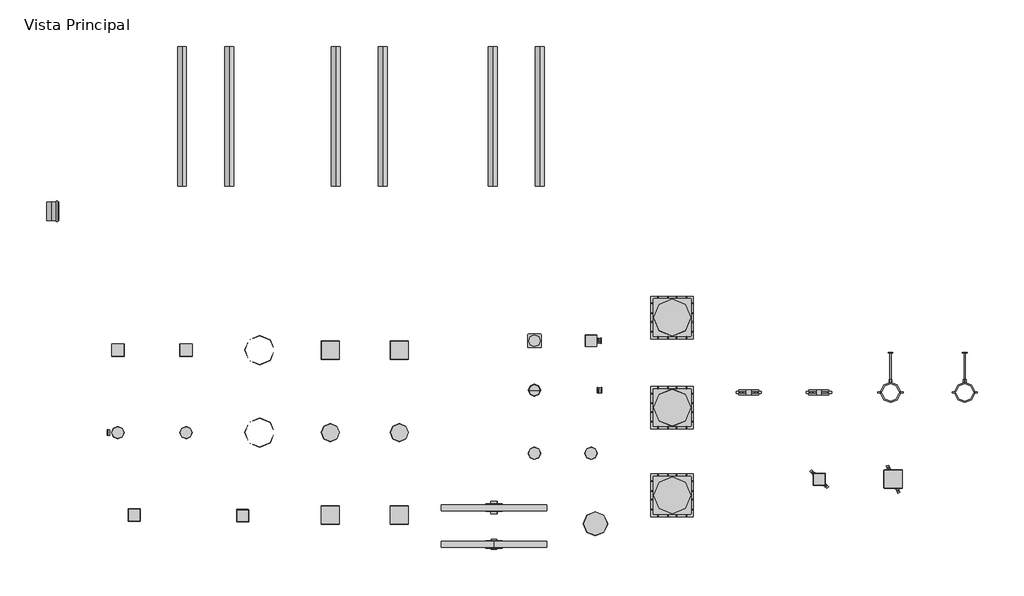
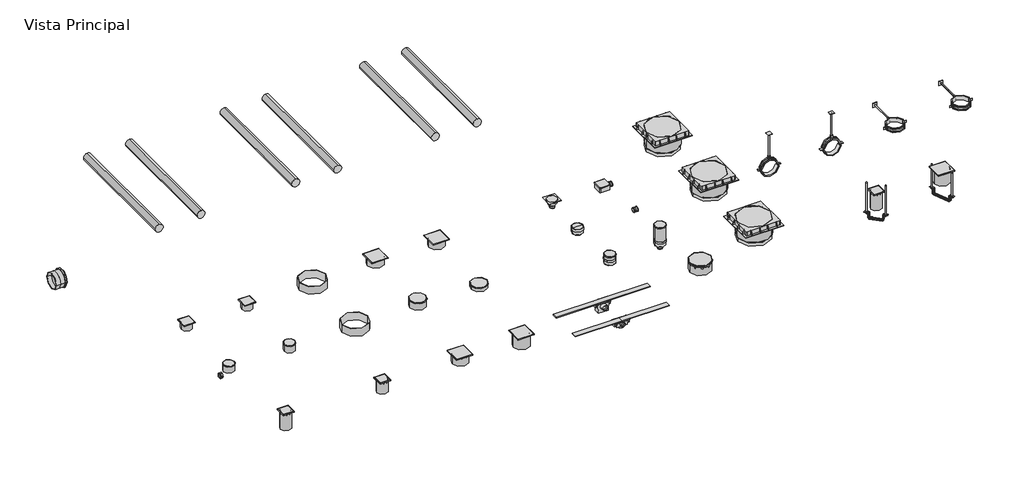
# One storey, incomplete: 79 pipe fittings, 6 pipe segments.
"""IFC4 building model written with IfcOpenShell, lengths in millimetres."""

from ifc_helpers import new_model, si_unit, point, frame, frame_2d, origin, place, context, project, spatial, circle_curve, trimmed, segment, composite_curve, outline, extrude, transform, mapped, element, save
from components import pipe_fitting_c9efb842, pipe_fitting_faaf0da3, pipe_fitting_47652752, pipe_fitting_5ac48150, var_07da592b, pipe_fitting_1affa7ac, branca_4d6c81dc, branca_e114f869, var_25763102, var_cd76d954, var_304c1aea, var_a9bd8114, var_31f01aff, var_6f0030ce, var_fd0be4a2, var_b1dc0cad, var_adf0dea4, var_122aa8a0, var_08b32b5d, var_3f5b61a8, var_c6f7f501, var_f02d1231, var_ae364558, var_155bfaf0, var_bb14af41, var_194fee5a, var_7cdf46ec, var_94de5e28, var_d2fa6d5f, var_e4b9970f, var_037d8761, var_c44c6f17, var_c8ad4ade, var_b5652f76, var_2c33ede7, var_7808e819, var_b98f59b0, var_06b88987, var_c3ea8d3d, var_ea95b4ab, var_e0431023, var_e55450d1, var_40b4b024, var_42dec933, var_47bd62c8, var_c63adebf, var_61dafded, var_d8ce8ba5, var_1266b2ea

model = new_model("IFC4")

# Units and contexts
model_context = context("Model", 3, world=origin())
ifc_project = project(units=[si_unit("LENGTHUNIT", "METRE", prefix="MILLI")], contexts=[model_context])

# Site, building, storey
site = spatial("IfcSite", under=ifc_project)
building = spatial("IfcBuilding", under=site)
storey = spatial("IfcBuildingStorey", under=building, Name="Vista Principal", Elevation=0.0)

# Pipe fittings
placement = place(None, origin())
pipe_fitting_shape = pipe_fitting_c9efb842(model_context)
element("IfcPipeFitting", 1, ObjectType="AmancoWavin_ConexõesdeTubos_EsgotoSilentiumNãoUsarSuporteCaixa : Zincado", at=placement, inside=storey, context=model_context, shape_type="MappedRepresentation", body=[
    mapped(pipe_fitting_shape, transform((21144.6539779, 3001.5203886, -290.355), x_axis=(0.7071067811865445, -0.7071067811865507, 0.0), y_axis=(0.7071067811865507, 0.7071067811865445, 0.0), z_axis=(0.0, 0.0, 1.0))),
])
pipe_fitting_2_shape = pipe_fitting_faaf0da3(model_context)
element("IfcPipeFitting", 2, ObjectType="AmancoWavin_ConexõesdeTubos_EsgotoSilentiumNãoUsarSuporteCaixa : Ecoat", at=placement, inside=storey, context=model_context, shape_type="MappedRepresentation", body=[
    mapped(pipe_fitting_2_shape, transform((21772.0366197, 3001.5203886, -293.01), x_axis=(0.3826834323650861, -0.9238795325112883, 0.0), y_axis=(0.9238795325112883, 0.3826834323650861, 0.0), z_axis=(0.0, 0.0, 1.0))),
])
pipe_fitting_3_shape = pipe_fitting_47652752(model_context)
element("IfcPipeFitting", 3, ObjectType="Z_Amanco Esgoto Caixa Sif Grelha Vórtice Quadrada (Nested) : Plástica Branca", at=placement, inside=storey, context=model_context, shape_type="MappedRepresentation", body=[
    mapped(pipe_fitting_3_shape, transform((15194.231361, 4096.9251232, 101.0), x_axis=(0.0, 1.0, 0.0), y_axis=(-1.0, 0.0, 0.0), z_axis=(0.0, 0.0, 1.0))),
])
pipe_fitting_4_shape = pipe_fitting_5ac48150(model_context)
element("IfcPipeFitting", 4, ObjectType="Z_Amanco Esgoto Caixa Sif Grelha Vórtice Redonda (Nested) : Plástica Branca", at=placement, inside=storey, context=model_context, shape_type="MappedRepresentation", body=[
    mapped(pipe_fitting_4_shape, transform((15194.231361, 3396.9251232, 98.6), x_axis=(-1.0, 0.0, 0.0), y_axis=(0.0, -1.0, 0.0), z_axis=(0.0, 0.0, 1.0))),
])
var_shape = var_07da592b(model_context)
element("IfcPipeFitting", 5, ObjectType="AmancoWavin_ConexõesdeTubos_EsgotoZNãoUsarGrelhaVorticeSilentium : Aço Inox Polido", at=placement, inside=storey, context=model_context, shape_type="MappedRepresentation", body=[
    mapped(var_shape, transform((16182.1459533, 2691.9251232, -2.6), x_axis=(-1.0, 0.0, 0.0), y_axis=(0.0, -1.0, 0.0), z_axis=(0.0, 0.0, 1.0))),
])
element("IfcPipeFitting", 6, ObjectType="AmancoWavin_ConexõesdeTubos_EsgotoZNãoUsarGrelhaVorticeSilentium : Aço Inox Polido", at=placement, inside=storey, context=model_context, shape_type="MappedRepresentation", body=[
    mapped(var_shape, transform((15262.2274414, 2696.9251232, -2.6), x_axis=(-1.0, 0.0, 0.0), y_axis=(0.0, -1.0, 0.0), z_axis=(0.0, 0.0, 1.0))),
])
pipe_fitting_5_shape = pipe_fitting_1affa7ac(model_context)
element("IfcPipeFitting", 7, ObjectType="AmancoWavin_ConexõesdeTubos_EsgotoZNãoUsarGrelhaVorticeSilentium : Aço Inox Polido", at=placement, inside=storey, context=model_context, shape_type="MappedRepresentation", body=[
    mapped(pipe_fitting_5_shape, transform((16926.8649644, 2696.9251232, -3.0), x_axis=(-1.0, 0.0, 0.0), y_axis=(0.0, -1.0, 0.0), z_axis=(0.0, 0.0, 1.0))),
])
element("IfcPipeFitting", 8, ObjectType="AmancoWavin_ConexõesdeTubos_EsgotoZNãoUsarGrelhaVorticeSilentium : Aço Inox Polido", at=placement, inside=storey, context=model_context, shape_type="MappedRepresentation", body=[
    mapped(pipe_fitting_5_shape, transform((17511.8649644, 2696.9251232, -3.0), x_axis=(-1.0, 0.0, 0.0), y_axis=(0.0, -1.0, 0.0), z_axis=(0.0, 0.0, 1.0))),
])
element("IfcPipeFitting", 9, ObjectType="AmancoWavin_ConexõesdeTubos_EsgotoZNãoUsarGrelhaVorticeSilentium : Aço Inox Polido", at=placement, inside=storey, context=model_context, shape_type="MappedRepresentation", body=[
    mapped(pipe_fitting_5_shape, transform((21701.6339755, 3001.5203886, -3.0), x_axis=(-1.0, 0.0, 0.0), y_axis=(0.0, -1.0, 0.0), z_axis=(0.0, 0.0, 1.0))),
])
branca_shape = branca_4d6c81dc(model_context)
element("IfcPipeFitting", 10, ObjectType="AmancoWavin_ConexõesdeTubos_EsgotoZNãoUsarTerminalRalolinear : Branca", at=placement, inside=storey, context=model_context, shape_type="MappedRepresentation", body=[
    mapped(branca_shape, transform((18386.107067, 2759.226408, -42.0), x_axis=(0.0, 1.0, 0.0), y_axis=(-1.0, 0.0, 0.0), z_axis=(0.0, 0.0, 1.0))),
])
branca_2_shape = branca_e114f869(model_context)
element("IfcPipeFitting", 11, ObjectType="AmancoWavin_ConexõesdeTubos_EsgotoZNãoUsarTerminalRalolinear : Branca", at=placement, inside=storey, context=model_context, shape_type="MappedRepresentation", body=[
    mapped(branca_2_shape, transform((18386.107067, 2446.98649, -32.0), x_axis=(0.0, 1.0, 0.0), y_axis=(-1.0, 0.0, 0.0), z_axis=(0.0, 0.0, 1.0))),
])
var_2_shape = var_25763102(model_context)
element("IfcPipeFitting", 12, ObjectType="AmancoWavin_ConexõesdeTubos_EsgotoSilentiumAbraçadeiraH_Zincada : Var.", at=placement, inside=storey, context=model_context, shape_type="MappedRepresentation", body=[
    mapped(var_2_shape, transform((20547.0326854, 3738.3854525, 0.0), x_axis=(1.0, 0.0, 0.0), y_axis=(0.0, 1.0, 0.0), z_axis=(0.0, 0.0, 1.0))),
])
var_3_shape = var_cd76d954(model_context)
element("IfcPipeFitting", 13, ObjectType="Z_Amanco Esgoto Redução Para Caixa Sifonada DN50X40 (Nested) : Var.", at=placement, inside=storey, context=model_context, shape_type="MappedRepresentation", body=[
    mapped(var_3_shape, transform((15116.031361, 3396.9251232, 0.0), x_axis=(1.0, 0.0, 0.0), y_axis=(0.0, 1.0, 0.0), z_axis=(0.0, 0.0, 1.0))),
])
var_4_shape = var_304c1aea(model_context)
element("IfcPipeFitting", 14, ObjectType="Z_Amanco Esgoto Caixa Sif DN 100  SQ GRID(Nested) : Var.", at=placement, inside=storey, context=model_context, shape_type="MappedRepresentation", body=[
    mapped(var_4_shape, transform((15772.6300856, 4096.9251232, 101.0), x_axis=(1.0, 0.0, 0.0), y_axis=(0.0, 1.0, 0.0), z_axis=(0.0, 0.0, 1.0))),
])
var_5_shape = var_a9bd8114(model_context)
element("IfcPipeFitting", 15, ObjectType="Z_Amanco Esgoto Caixa Sif DN 100 Porta Grelha Redondo (Nested) : Var.", at=placement, inside=storey, context=model_context, shape_type="MappedRepresentation", body=[
    mapped(var_5_shape, transform((15194.231361, 3396.9251232, 98.5), x_axis=(0.0, 1.0, 0.0), y_axis=(-1.0, 0.0, 0.0), z_axis=(0.0, 0.0, 1.0))),
])
var_6_shape = var_31f01aff(model_context)
element("IfcPipeFitting", 16, ObjectType="Z_Amanco Esgoto Caixa Sif DN 100 Porta Grelha Quadrado (Nested) : Var.", at=placement, inside=storey, context=model_context, shape_type="MappedRepresentation", body=[
    mapped(var_6_shape, transform((15194.231361, 4096.9251232, 101.0), x_axis=(1.0, 0.0, 0.0), y_axis=(0.0, 1.0, 0.0), z_axis=(0.0, 0.0, 1.0))),
])
var_7_shape = var_6f0030ce(model_context)
element("IfcPipeFitting", 17, ObjectType="Z_Amanco Esgoto Caixa Sif DN 100  RO GRID(Nested) : Var.", at=placement, inside=storey, context=model_context, shape_type="MappedRepresentation", body=[
    mapped(var_7_shape, transform((15772.6300856, 3396.9251232, 106.0), x_axis=(1.0, 0.0, 0.0), y_axis=(0.0, 1.0, 0.0), z_axis=(0.0, 0.0, 1.0))),
])
var_8_shape = var_fd0be4a2(model_context)
element("IfcPipeFitting", 18, ObjectType="Z_Amanco Esgoto Caixa Sif DN 150  RO GRID(Nested) : Var.", at=placement, inside=storey, context=model_context, shape_type="MappedRepresentation", body=[
    mapped(var_8_shape, transform((16997.2676086, 3396.9251232, 126.0), x_axis=(1.0, 0.0, 0.0), y_axis=(0.0, 1.0, 0.0), z_axis=(0.0, 0.0, 1.0))),
])
element("IfcPipeFitting", 19, ObjectType="Z_Amanco Esgoto Caixa Sif DN 150  RO GRID(Nested) : Var.", at=placement, inside=storey, context=model_context, shape_type="MappedRepresentation", body=[
    mapped(var_8_shape, transform((17582.2676086, 3396.9251232, 74.0), x_axis=(1.0, 0.0, 0.0), y_axis=(0.0, 1.0, 0.0), z_axis=(0.0, 0.0, 1.0))),
])
var_9_shape = var_b1dc0cad(model_context)
element("IfcPipeFitting", 20, ObjectType="AmancoWavin_ConexõesdeTubos_EsgotoZNãoUsarRaloSifonadoCilindrico : Var.", at=placement, inside=storey, context=model_context, shape_type="MappedRepresentation", body=[
    mapped(var_9_shape, transform((18729.1544399, 3756.5330417, -18.0), x_axis=(1.0, 0.0, 0.0), y_axis=(0.0, 1.0, 0.0), z_axis=(0.0, 0.0, 1.0))),
])
var_10_shape = var_adf0dea4(model_context)
element("IfcPipeFitting", 21, ObjectType="AmancoWavin_ConexõesdeTubos_EsgotoZNãoUsarCaixaSifonadaSilentiumProlongamento : Var.", at=placement, inside=storey, context=model_context, shape_type="MappedRepresentation", body=[
    mapped(var_10_shape, transform((15332.6300856, 2696.9251232, -173.625), x_axis=(0.0, 0.0, 1.0), y_axis=(-1.0, 0.0, 0.0), z_axis=(0.0, -1.0, 0.0))),
])
element("IfcPipeFitting", 22, ObjectType="AmancoWavin_ConexõesdeTubos_EsgotoZNãoUsarCaixaSifonadaSilentiumProlongamento : Var.", at=placement, inside=storey, context=model_context, shape_type="MappedRepresentation", body=[
    mapped(var_10_shape, transform((21144.6539779, 3001.5203886, -173.625), x_axis=(0.0, 0.0, 1.0), y_axis=(-1.0, 0.0, 0.0), z_axis=(0.0, -1.0, 0.0))),
])
var_11_shape = var_122aa8a0(model_context)
element("IfcPipeFitting", 23, ObjectType="AmancoWavin_ConexõesdeTubos_EsgotoZNãoUsarCaixaSifonadaSilentiumProlongamento : Var.", at=placement, inside=storey, context=model_context, shape_type="MappedRepresentation", body=[
    mapped(var_11_shape, transform((16997.2676086, 2696.9251232, -91.0), x_axis=(0.0, 0.0, 1.0), y_axis=(-1.0, 0.0, 0.0), z_axis=(0.0, -1.0, 0.0))),
])
var_12_shape = var_08b32b5d(model_context)
element("IfcPipeFitting", 24, ObjectType="AmancoWavin_ConexõesdeTubos_EsgotoZNãoUsarCaixaSifonadaSilentiumProlongamento : Var.", at=placement, inside=storey, context=model_context, shape_type="MappedRepresentation", body=[
    mapped(var_12_shape, transform((17582.2676086, 2696.9251232, -128.0), x_axis=(0.0, 0.0, 1.0), y_axis=(-1.0, 0.0, 0.0), z_axis=(0.0, -1.0, 0.0))),
])
element("IfcPipeFitting", 25, ObjectType="AmancoWavin_ConexõesdeTubos_EsgotoZNãoUsarCaixaSifonadaSilentiumProlongamento : Var.", at=placement, inside=storey, context=model_context, shape_type="MappedRepresentation", body=[
    mapped(var_12_shape, transform((21772.0366197, 3001.5203886, -128.0), x_axis=(0.0, 0.0, 1.0), y_axis=(-1.0, 0.0, 0.0), z_axis=(0.0, -1.0, 0.0))),
])
var_13_shape = var_3f5b61a8(model_context)
element("IfcPipeFitting", 26, ObjectType="AmancoWavin_ConexõesdeTubos_EsgotoZNãoUsarCaixaSifonadaSilentiumProlongamento : Var.", at=placement, inside=storey, context=model_context, shape_type="MappedRepresentation", body=[
    mapped(var_13_shape, transform((16252.5485975, 2691.9251232, -124.6526955), x_axis=(0.0, 0.0, 1.0), y_axis=(-1.0, 0.0, 0.0), z_axis=(0.0, -1.0, 0.0))),
])
var_14_shape = var_c6f7f501(model_context)
element("IfcPipeFitting", 27, ObjectType="AmancoWavin_ConexõesdeTubos_EsgotoZNãoUsarGelhaRaloLinear : Var.", at=placement, inside=storey, context=model_context, shape_type="MappedRepresentation", body=[
    mapped(var_14_shape, transform((18610.257067, 2446.98649, -5.7), x_axis=(-1.0, 0.0, 0.0), y_axis=(0.0, -1.0, 0.0), z_axis=(0.0, 0.0, 1.0))),
])
element("IfcPipeFitting", 28, ObjectType="AmancoWavin_ConexõesdeTubos_EsgotoZNãoUsarGelhaRaloLinear : Var.", at=placement, inside=storey, context=model_context, shape_type="MappedRepresentation", body=[
    mapped(var_14_shape, transform((18161.957067, 2446.98649, -5.7), x_axis=(-1.0, 0.0, 0.0), y_axis=(0.0, -1.0, 0.0), z_axis=(0.0, 0.0, 1.0))),
])
var_15_shape = var_f02d1231(model_context)
element("IfcPipeFitting", 29, ObjectType="AmancoWavin_ConexõesdeTubos_EsgotoRaloLinearSifonado : Var.", at=placement, inside=storey, context=model_context, shape_type="MappedRepresentation", body=[
    mapped(var_15_shape, transform((18386.107067, 2759.226408, 0.0), x_axis=(-1.0, 0.0, 0.0), y_axis=(0.0, -1.0, 0.0), z_axis=(0.0, 0.0, 1.0))),
])
var_16_shape = var_ae364558(model_context)
element("IfcPipeFitting", 30, ObjectType="AmancoWavin_ConexõesdeTubos_EsgotoZNãoUsarEsgotoProlongamento300mm : Var.", at=placement, inside=storey, context=model_context, shape_type="MappedRepresentation", body=[
    mapped(var_16_shape, transform((19897.5301317, 4373.3854525, 44.7), x_axis=(1.0, 0.0, 0.0), y_axis=(0.0, 1.0, 0.0), z_axis=(0.0, 0.0, 1.0))),
])
element("IfcPipeFitting", 31, ObjectType="AmancoWavin_ConexõesdeTubos_EsgotoZNãoUsarEsgotoProlongamento300mm : Var.", at=placement, inside=storey, context=model_context, shape_type="MappedRepresentation", body=[
    mapped(var_16_shape, transform((19897.5301317, 3608.8206667, 58.8), x_axis=(1.0, 0.0, 0.0), y_axis=(0.0, 1.0, 0.0), z_axis=(0.0, 0.0, 1.0))),
])
var_17_shape = var_155bfaf0(model_context)
element("IfcPipeFitting", 32, ObjectType="AmancoWavin_ConexõesdeTubos_EsgotoZNãoUsarEsgotoProlongamento300mm : Var.", at=placement, inside=storey, context=model_context, shape_type="MappedRepresentation", body=[
    mapped(var_17_shape, transform((19897.5301317, 2864.2558809, 58.8), x_axis=(1.0, 0.0, 0.0), y_axis=(0.0, 1.0, 0.0), z_axis=(0.0, 0.0, 1.0))),
])
var_18_shape = var_bb14af41(model_context)
element("IfcPipeFitting", 33, ObjectType="AmancoWavin_ConexõesdeTubos_EsgotoZNãoUsarPortaGrelhaVálvuladeRetenção : Var.", at=placement, inside=storey, context=model_context, shape_type="MappedRepresentation", body=[
    mapped(var_18_shape, transform((19316.5560305, 2623.1095783, 178.0), x_axis=(1.0, 0.0, 0.0), y_axis=(0.0, 1.0000000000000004, 0.0), z_axis=(0.0, 0.0, 1.0000000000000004))),
])
var_19_shape = var_194fee5a(model_context)
element("IfcPipeFitting", 34, ObjectType="AmancoWavin_ConexõesdeTubos_EsgotoZNãoUsarEsgotoCaixaSifProlongamento : Var.", at=placement, inside=storey, context=model_context, shape_type="MappedRepresentation", body=[
    mapped(var_19_shape, transform((16397.2676086, 4096.9251232, 31.0), x_axis=(0.0, 0.0, 1.0), y_axis=(-1.0, 0.0, 0.0), z_axis=(0.0, -1.0, 0.0))),
])
element("IfcPipeFitting", 35, ObjectType="AmancoWavin_ConexõesdeTubos_EsgotoZNãoUsarEsgotoCaixaSifProlongamento : Var.", at=placement, inside=storey, context=model_context, shape_type="MappedRepresentation", body=[
    mapped(var_19_shape, transform((16397.2676086, 3396.9251232, 31.0), x_axis=(0.0, 0.0, 1.0), y_axis=(-1.0, 0.0, 0.0), z_axis=(0.0, -1.0, 0.0))),
])
var_20_shape = var_7cdf46ec(model_context)
element("IfcPipeFitting", 36, ObjectType="AmancoWavin_ConexõesdeTubos_EsgotoZNãoUsarEsgotoCaixaSifProlongamento : Var.", at=placement, inside=storey, context=model_context, shape_type="MappedRepresentation", body=[
    mapped(var_20_shape, transform((16997.2676086, 4096.9251232, 51.0), x_axis=(0.0, 0.0, 1.0), y_axis=(-1.0, 0.0, 0.0), z_axis=(0.0, -1.0, 0.0))),
])
element("IfcPipeFitting", 37, ObjectType="AmancoWavin_ConexõesdeTubos_EsgotoZNãoUsarEsgotoCaixaSifProlongamento : Var.", at=placement, inside=storey, context=model_context, shape_type="MappedRepresentation", body=[
    mapped(var_20_shape, transform((16997.2676086, 3396.9251232, 51.0), x_axis=(0.0, 0.0, 1.0), y_axis=(-1.0, 0.0, 0.0), z_axis=(0.0, -1.0, 0.0))),
])
element("IfcPipeFitting", 38, ObjectType="AmancoWavin_ConexõesdeTubos_EsgotoZNãoUsarEsgotoCaixaSifProlongamento : Var.", at=placement, inside=storey, context=model_context, shape_type="MappedRepresentation", body=[
    mapped(var_20_shape, transform((17582.2676086, 4096.9251232, 34.0), x_axis=(0.0, 0.0, 1.0), y_axis=(-1.0, 0.0, 0.0), z_axis=(0.0, -1.0, 0.0))),
])
var_21_shape = var_94de5e28(model_context)
element("IfcPipeFitting", 39, ObjectType="AmancoWavin_ConexõesdeTubos_EsgotoZNãoUsarEsgotoCaixaSifProlongamento : Var.", at=placement, inside=storey, context=model_context, shape_type="MappedRepresentation", body=[
    mapped(var_21_shape, transform((15772.6300856, 3396.9251232, 31.0), x_axis=(0.0, 0.0, 1.0), y_axis=(-1.0, 0.0, 0.0), z_axis=(0.0, -1.0, 0.0))),
])
var_22_shape = var_d2fa6d5f(model_context)
element("IfcPipeFitting", 40, ObjectType="AmancoWavin_ConexõesdeTubos_EsgotoZNãoUsarEsgotoCaixaSifProlongamento : Var.", at=placement, inside=storey, context=model_context, shape_type="MappedRepresentation", body=[
    mapped(var_22_shape, transform((17582.2676086, 3396.9251232, 34.0), x_axis=(0.0, 0.0, 1.0), y_axis=(-1.0, 0.0, 0.0), z_axis=(0.0, -1.0, 0.0))),
])
var_23_shape = var_e4b9970f(model_context)
element("IfcPipeFitting", 41, ObjectType="AmancoWavin_ConexõesdeTubos_EsgotoZNãoUsarEsgotoCaixaSifProlongamento : Var.", at=placement, inside=storey, context=model_context, shape_type="MappedRepresentation", body=[
    mapped(var_23_shape, transform((19246.1533863, 2623.1095783, 98.8), x_axis=(0.0, 0.0, 1.0000000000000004), y_axis=(-1.0, 0.0, 0.0), z_axis=(0.0, -1.0000000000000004, 0.0))),
])
var_24_shape = var_037d8761(model_context)
element("IfcPipeFitting", 42, ObjectType="AmancoWavin_ConexõesdeTubos_EsgotoZNãoUsarEsgotoCaixaSifProlongamento : Var.", at=placement, inside=storey, context=model_context, shape_type="MappedRepresentation", body=[
    mapped(var_24_shape, transform((15772.6300856, 4096.9251232, 31.0), x_axis=(0.0, 0.0, 1.0), y_axis=(-1.0, 0.0, 0.0), z_axis=(0.0, -1.0, 0.0))),
])
element("IfcPipeFitting", 43, ObjectType="AmancoWavin_ConexõesdeTubos_EsgotoZNãoUsarEsgotoCaixaSifProlongamento : Var.", at=placement, inside=storey, context=model_context, shape_type="MappedRepresentation", body=[
    mapped(var_24_shape, transform((15194.231361, 4096.9251232, 31.0), x_axis=(0.0, 0.0, 1.0), y_axis=(-1.0, 0.0, 0.0), z_axis=(0.0, -1.0, 0.0))),
])
var_25_shape = var_c44c6f17(model_context)
element("IfcPipeFitting", 44, ObjectType="AmancoWavin_ConexõesdeTubos_EsgotoZNãoUsarEsgotoCaixaSifProlongamento : Var.", at=placement, inside=storey, context=model_context, shape_type="MappedRepresentation", body=[
    mapped(var_25_shape, transform((18729.1544399, 3221.7756526, 19.3), x_axis=(0.0, 0.0, 1.0), y_axis=(-1.0, 0.0, 0.0), z_axis=(0.0, -1.0, 0.0))),
])
var_26_shape = var_c8ad4ade(model_context)
element("IfcPipeFitting", 45, ObjectType="AmancoWavin_ConexõesdeTubos_EsgotoZNãoUsarEsgotoCaixaSifProlongamento : Var.", at=placement, inside=storey, context=model_context, shape_type="MappedRepresentation", body=[
    mapped(var_26_shape, transform((19209.1544399, 3221.7756526, 38.0), x_axis=(0.0, 0.0, 1.0), y_axis=(-1.0, 0.0, 0.0), z_axis=(0.0, -1.0, 0.0))),
])
var_27_shape = var_b5652f76(model_context)
element("IfcPipeFitting", 46, ObjectType="AmancoWavin_ConexõesdeTubos_EsgotoZNãoUsarEsgotoCaixaSifProlongamento : Var.", at=placement, inside=storey, context=model_context, shape_type="MappedRepresentation", body=[
    mapped(var_27_shape, transform((15194.231361, 3396.9251232, 31.0), x_axis=(0.0, 0.0, 1.0), y_axis=(-1.0, 0.0, 0.0), z_axis=(0.0, -1.0, 0.0))),
])
var_28_shape = var_2c33ede7(model_context)
element("IfcPipeFitting", 47, ObjectType="AmancoWavin_ConexõesdeTubos_EsgotoZNãoUsarTampaCaixaGord-Insp : Var.", at=placement, inside=storey, context=model_context, shape_type="MappedRepresentation", body=[
    mapped(var_28_shape, transform((19897.5301317, 3608.8206667, 212.6), x_axis=(1.0, 0.0, 0.0), y_axis=(0.0, 1.0, 0.0), z_axis=(0.0, 0.0, 1.0))),
])
element("IfcPipeFitting", 48, ObjectType="AmancoWavin_ConexõesdeTubos_EsgotoZNãoUsarTampaCaixaGord-Insp : Var.", at=placement, inside=storey, context=model_context, shape_type="MappedRepresentation", body=[
    mapped(var_28_shape, transform((19897.5301317, 4373.3854525, 198.5), x_axis=(1.0, 0.0, 0.0), y_axis=(0.0, 1.0, 0.0), z_axis=(0.0, 0.0, 1.0))),
])
element("IfcPipeFitting", 49, ObjectType="AmancoWavin_ConexõesdeTubos_EsgotoZNãoUsarTampaCaixaGord-Insp : Var.", at=placement, inside=storey, context=model_context, shape_type="MappedRepresentation", body=[
    mapped(var_28_shape, transform((19897.5301317, 2864.2558809, 207.6), x_axis=(1.0, 0.0, 0.0), y_axis=(0.0, 1.0, 0.0), z_axis=(0.0, 0.0, 1.0))),
])
var_29_shape = var_7808e819(model_context)
element("IfcPipeFitting", 50, ObjectType="AmancoWavin_ConexõesdeTubos_EsgotoZNãoUsarRaloSifonadoQuadrado(Corpo Conico) : Var.", at=placement, inside=storey, context=model_context, shape_type="MappedRepresentation", body=[
    mapped(var_29_shape, transform((18729.1544399, 4176.9251232, 0.0), x_axis=(1.0, 0.0, 0.0), y_axis=(0.0, 1.0, 0.0), z_axis=(0.0, 0.0, 1.0))),
])
var_30_shape = var_b98f59b0(model_context)
element("IfcPipeFitting", 51, ObjectType="AmancoWavin_ConexõesdeTubos_EsgotoZNãoUsarPortaGrelhaSilentium : Var.", at=placement, inside=storey, context=model_context, shape_type="MappedRepresentation", body=[
    mapped(var_30_shape, transform((17067.6702529, 2696.9251232, -7.0), x_axis=(1.0, 0.0, 0.0), y_axis=(0.0, 1.0, 0.0), z_axis=(0.0, 0.0, 1.0))),
])
element("IfcPipeFitting", 52, ObjectType="AmancoWavin_ConexõesdeTubos_EsgotoZNãoUsarPortaGrelhaSilentium : Var.", at=placement, inside=storey, context=model_context, shape_type="MappedRepresentation", body=[
    mapped(var_30_shape, transform((17511.8649644, 2696.9251232, -7.0), x_axis=(-1.0, 0.0, 0.0), y_axis=(0.0, -1.0, 0.0), z_axis=(0.0, 0.0, 1.0))),
])
element("IfcPipeFitting", 53, ObjectType="AmancoWavin_ConexõesdeTubos_EsgotoZNãoUsarPortaGrelhaSilentium : Var.", at=placement, inside=storey, context=model_context, shape_type="MappedRepresentation", body=[
    mapped(var_30_shape, transform((21701.6339755, 3001.5203886, -7.0), x_axis=(-1.0, 0.0, 0.0), y_axis=(0.0, -1.0, 0.0), z_axis=(0.0, 0.0, 1.0))),
])
var_31_shape = var_06b88987(model_context)
element("IfcPipeFitting", 54, ObjectType="AmancoWavin_ConexõesdeTubos_EsgotoSilentiumAbraçadeiraV_Zincada : Var.", at=placement, inside=storey, context=model_context, shape_type="MappedRepresentation", body=[
    mapped(var_31_shape, transform((21749.9859504, 3738.3854525, 0.0), x_axis=(-1.0, 0.0, 0.0), y_axis=(0.0, -1.0, 0.0), z_axis=(0.0, 0.0, 1.0))),
])
element("IfcPipeFitting", 55, ObjectType="AmancoWavin_ConexõesdeTubos_EsgotoSilentiumAbraçadeiraH_Ecoat : Var.", at=placement, inside=storey, context=model_context, shape_type="MappedRepresentation", body=[
    mapped(var_2_shape, transform((21142.1466458, 3738.3854525, 0.0), x_axis=(1.0, 0.0, 0.0), y_axis=(0.0, 1.0, 0.0), z_axis=(0.0, 0.0, 1.0))),
])
element("IfcPipeFitting", 56, ObjectType="AmancoWavin_ConexõesdeTubos_EsgotoSilentiumAbraçadeiraV_Ecoat : Var.", at=placement, inside=storey, context=model_context, shape_type="MappedRepresentation", body=[
    mapped(var_31_shape, transform((22380.0999108, 3738.3854525, 0.0), x_axis=(-1.0, 0.0, 0.0), y_axis=(0.0, -1.0, 0.0), z_axis=(0.0, 0.0, 1.0))),
])
var_32_shape = var_c3ea8d3d(model_context)
element("IfcPipeFitting", 57, ObjectType="AmancoWavin_ConexõesdeTubos_EsfotoSilentiumNãoUsarBarracomBase : Var.", at=placement, inside=storey, context=model_context, shape_type="MappedRepresentation", body=[
    mapped(var_32_shape, transform((20547.0326854, 3738.3854525, 97.5), x_axis=(1.0, 0.0, 0.0), y_axis=(0.0, 1.0, 0.0), z_axis=(0.0, 0.0, 1.0))),
])
element("IfcPipeFitting", 58, ObjectType="AmancoWavin_ConexõesdeTubos_EsfotoSilentiumNãoUsarBarracomBase : Var.", at=placement, inside=storey, context=model_context, shape_type="MappedRepresentation", body=[
    mapped(var_32_shape, transform((21749.9859504, 3835.8854525, 0.0), x_axis=(1.0, 0.0, 0.0), y_axis=(0.0, 0.0, -1.0), z_axis=(0.0, 1.0, 0.0))),
])
element("IfcPipeFitting", 59, ObjectType="AmancoWavin_ConexõesdeTubos_EsfotoSilentiumNãoUsarBarracomBase : Var.", at=placement, inside=storey, context=model_context, shape_type="MappedRepresentation", body=[
    mapped(var_32_shape, transform((22380.0999108, 3835.8854525, 0.0), x_axis=(1.0, 0.0, 0.0), y_axis=(0.0, 0.0, -1.0), z_axis=(0.0, 1.0, 0.0))),
])
element("IfcPipeFitting", 60, ObjectType="AmancoWavin_ConexõesdeTubos_EsfotoSilentiumNãoUsarBarracomBase : Var.", at=placement, inside=storey, context=model_context, shape_type="MappedRepresentation", body=[
    mapped(var_32_shape, transform((21142.1466458, 3738.3854525, 97.5), x_axis=(1.0, 0.0, 0.0), y_axis=(0.0, 1.0, 0.0), z_axis=(0.0, 0.0, 1.0))),
])
var_33_shape = var_ea95b4ab(model_context)
element("IfcPipeFitting", 61, ObjectType="AmancoWavin_ConexõesdeTubos_EsfotoSilentiumNãoUsarBarrasemBase : Var.", at=placement, inside=storey, context=model_context, shape_type="MappedRepresentation", body=[
    mapped(var_33_shape, transform((21731.6635176, 3098.9896792, -250.26), x_axis=(0.3826834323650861, -0.9238795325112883, 0.0), y_axis=(0.9238795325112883, 0.3826834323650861, 0.0), z_axis=(0.0, 0.0, 1.0))),
])
element("IfcPipeFitting", 62, ObjectType="AmancoWavin_ConexõesdeTubos_EsfotoSilentiumNãoUsarBarrasemBase : Var.", at=placement, inside=storey, context=model_context, shape_type="MappedRepresentation", body=[
    mapped(var_33_shape, transform((21812.4097218, 2904.0510979, -250.26), x_axis=(0.3826834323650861, -0.9238795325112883, 0.0), y_axis=(0.9238795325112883, 0.3826834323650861, 0.0), z_axis=(0.0, 0.0, 1.0))),
])
var_34_shape = var_e0431023(model_context)
element("IfcPipeFitting", 63, ObjectType="AmancoWavin_ConexõesdeTubos_EsfotoSilentiumNãoUsarBarrasemBase : Var.", at=placement, inside=storey, context=model_context, shape_type="MappedRepresentation", body=[
    mapped(var_34_shape, transform((21086.3176684, 3059.856698, -247.605), x_axis=(0.7071067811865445, -0.7071067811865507, 0.0), y_axis=(0.7071067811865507, 0.7071067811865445, 0.0), z_axis=(0.0, 0.0, 1.0))),
])
element("IfcPipeFitting", 64, ObjectType="AmancoWavin_ConexõesdeTubos_EsfotoSilentiumNãoUsarBarrasemBase : Var.", at=placement, inside=storey, context=model_context, shape_type="MappedRepresentation", body=[
    mapped(var_34_shape, transform((21202.9902873, 2943.1840791, -247.605), x_axis=(0.7071067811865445, -0.7071067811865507, 0.0), y_axis=(0.7071067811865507, 0.7071067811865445, 0.0), z_axis=(0.0, 0.0, 1.0))),
])
element("IfcPipeFitting", 65, ObjectType="AmancoWavin_ConexõesdeTubos_EsgotoZNãoUsarGrelhaSilentium : Var.", at=placement, inside=storey, context=model_context, shape_type="MappedRepresentation", body=[
    mapped(var_shape, transform((21215.0566221, 3001.5203886, -2.6), x_axis=(1.0, 0.0, 0.0), y_axis=(0.0, 1.0, 0.0), z_axis=(0.0, 0.0, 1.0))),
])
var_35_shape = var_e55450d1(model_context)
element("IfcPipeFitting", 66, ObjectType="Z_Amanco Esgoto Caixa Sif DN 150  SQ GRID(Nested) : Var.", at=placement, inside=storey, context=model_context, shape_type="MappedRepresentation", body=[
    mapped(var_35_shape, transform((16997.2676086, 4096.9251232, 126.0), x_axis=(1.0, 0.0, 0.0), y_axis=(0.0, 1.0, 0.0), z_axis=(0.0, 0.0, 1.0))),
])
element("IfcPipeFitting", 67, ObjectType="Z_Amanco Esgoto Caixa Sif DN 150  SQ GRID(Nested) : Var.", at=placement, inside=storey, context=model_context, shape_type="MappedRepresentation", body=[
    mapped(var_35_shape, transform((17582.2676086, 4096.9251232, 109.0), x_axis=(1.0, 0.0, 0.0), y_axis=(0.0, 1.0, 0.0), z_axis=(0.0, 0.0, 1.0))),
])
var_36_shape = var_40b4b024(model_context)
element("IfcPipeFitting", 68, ObjectType="AmancoWavin_ConexõesdeTubos_EsgotoZNãoUsarLuvaSimple : Var.", at=placement, inside=storey, context=model_context, shape_type="MappedRepresentation", body=[
    mapped(var_36_shape, transform((19209.1544399, 3221.7756526, -19.0), x_axis=(0.0, 0.0, 1.0), y_axis=(-1.0, 0.0, 0.0), z_axis=(0.0, -1.0, 0.0))),
])
element("IfcPipeFitting", 69, ObjectType="AmancoWavin_ConexõesdeTubos_EsgotoZNãoUsarLuvaSimple : Var.", at=placement, inside=storey, context=model_context, shape_type="MappedRepresentation", body=[
    mapped(var_36_shape, transform((19280.4544399, 3756.5330417, 0.0), x_axis=(-1.0, 0.0, 0.0), y_axis=(0.0, -1.0, 0.0), z_axis=(0.0, 0.0, 1.0))),
])
element("IfcPipeFitting", 70, ObjectType="AmancoWavin_ConexõesdeTubos_EsgotoZNãoUsarLuvaSimple : Var.", at=placement, inside=storey, context=model_context, shape_type="MappedRepresentation", body=[
    mapped(var_36_shape, transform((19277.3544399, 4176.9251232, 0.0), x_axis=(-1.0, 0.0, 0.0), y_axis=(0.0, 0.0, -1.0), z_axis=(0.0, -1.0, 0.0))),
])
element("IfcPipeFitting", 71, ObjectType="AmancoWavin_ConexõesdeTubos_EsgotoZNãoUsarLuvaSimple : Var.", at=placement, inside=storey, context=model_context, shape_type="MappedRepresentation", body=[
    mapped(var_36_shape, transform((18729.1544399, 4176.9251232, -19.0), x_axis=(0.0, 0.0, 1.0), y_axis=(-1.0, 0.0, 0.0), z_axis=(0.0, -1.0, 0.0))),
])
var_37_shape = var_42dec933(model_context)
element("IfcPipeFitting", 72, ObjectType="AmancoWavin_ConexõesdeTubos_EsgotoZNãoUsarLuvaSimple : Var.", at=placement, inside=storey, context=model_context, shape_type="MappedRepresentation", body=[
    mapped(var_37_shape, transform((14629.1609889, 5276.2225632, 0.0), x_axis=(1.0, 0.0, 0.0), y_axis=(0.0, 1.0, 0.0), z_axis=(0.0, 0.0, 1.0))),
])
var_38_shape = var_47bd62c8(model_context)
element("IfcPipeFitting", 73, ObjectType="AmancoWavin_ConexõesdeTubos_EsgotoRaloSecoQuadrado : Var.", at=placement, inside=storey, context=model_context, shape_type="MappedRepresentation", body=[
    mapped(var_38_shape, transform((19209.1544399, 4176.9251232, 0.0), x_axis=(1.0, 0.0, 0.0), y_axis=(0.0, 1.0, 0.0), z_axis=(0.0, 0.0, 1.0))),
])
var_39_shape = var_c63adebf(model_context)
element("IfcPipeFitting", 74, ObjectType="AmancoWavin_ConexõesdeTubos_EsgotoZNãoUsarPortaGrelhaSilentium : Var.", at=placement, inside=storey, context=model_context, shape_type="MappedRepresentation", body=[
    mapped(var_39_shape, transform((15403.0327298, 2696.9251232, -7.0), x_axis=(1.0, 0.0, 0.0), y_axis=(0.0, 1.0, 0.0), z_axis=(0.0, 0.0, 1.0))),
])
element("IfcPipeFitting", 75, ObjectType="AmancoWavin_ConexõesdeTubos_EsgotoZNãoUsarPortaGrelhaSilentium : Var.", at=placement, inside=storey, context=model_context, shape_type="MappedRepresentation", body=[
    mapped(var_39_shape, transform((21215.0566221, 3001.5203886, -7.0), x_axis=(1.0, 0.0, 0.0), y_axis=(0.0, 1.0, 0.0), z_axis=(0.0, 0.0, 1.0))),
])
element("IfcPipeFitting", 76, ObjectType="AmancoWavin_ConexõesdeTubos_EsgotoZNãoUsarPortaGrelhaSilentium : Var.", at=placement, inside=storey, context=model_context, shape_type="MappedRepresentation", body=[
    mapped(var_39_shape, transform((16322.9512418, 2691.9251232, -7.0), x_axis=(1.0, 0.0, 0.0), y_axis=(0.0, 1.0, 0.0), z_axis=(0.0, 0.0, 1.0))),
])
var_40_shape = var_61dafded(model_context)
element("IfcPipeFitting", 77, ObjectType="AmancoWavin_ConexõesdeTubos_EsgotoZNãoUsarRaloSifonadoCilindricoProlongamento : Var.", at=placement, inside=storey, context=model_context, shape_type="MappedRepresentation", body=[
    mapped(var_40_shape, transform((18729.1544399, 3221.7756526, 0.0), x_axis=(1.0, 0.0, 0.0), y_axis=(0.0, 1.0, 0.0), z_axis=(0.0, 0.0, 1.0))),
])
var_41_shape = var_d8ce8ba5(model_context)
element("IfcPipeFitting", 78, ObjectType="AmancoWavin_ConexõesdeTubos_EsgotoRaloSifonadoCilindricocomProlongamento : Var.", at=placement, inside=storey, context=model_context, shape_type="MappedRepresentation", body=[
    mapped(var_41_shape, transform((18729.1544399, 3221.7756526, 0.0), x_axis=(1.0, 0.0, 0.0), y_axis=(0.0, 1.0, 0.0), z_axis=(0.0, 0.0, 1.0))),
])
var_42_shape = var_1266b2ea(model_context)
element("IfcPipeFitting", 79, ObjectType="AmancoWavin_ConexõesdeTubos_EsgotoRaloSecoCilindricocomProlongamento : Var.", at=placement, inside=storey, context=model_context, shape_type="MappedRepresentation", body=[
    mapped(var_42_shape, transform((19209.1544399, 3221.7756526, 0.0), x_axis=(1.0, 0.0, 0.0), y_axis=(0.0, 1.0, 0.0), z_axis=(0.0, 0.0, 1.0))),
])

# Pipe segments
element("IfcPipeSegment", 80, ObjectType="Amanco Wavin Esgoto Série Normal SEM Bolsa", at=placement, inside=storey, context=model_context, shape_type="SweptSolid", body=[
    extrude(outline(composite_curve([segment(trimmed(circle_curve(frame_2d((0.0, 15738.7661597)), 37.75), [point((0.0, 15701.0161597))], [point((-37.75, 15738.7661597))], False, "CARTESIAN"), True, "CONTINUOUS"), segment(trimmed(circle_curve(frame_2d((0.0, 15738.7661597)), 37.75), [point((-37.75, 15738.7661597))], [point((0.0, 15776.5161597))], False, "CARTESIAN"), True, "CONTINUOUS"), segment(trimmed(circle_curve(frame_2d((0.0, 15738.7661597)), 37.75), [point((0.0, 15776.5161597))], [point((37.75, 15738.7661597))], False, "CARTESIAN"), True, "CONTINUOUS"), segment(trimmed(circle_curve(frame_2d((0.0, 15738.7661597)), 37.75), [point((37.75, 15738.7661597))], [point((0.0, 15701.0161597))], False, "CARTESIAN"), True, "CONTINUOUS")], self_intersect=False)), frame((0.0, 5490.6695318, 0.0), z_axis=(0.0, 1.0, 0.0), x_axis=(0.0, 0.0, 1.0)), (0.0, 0.0, 1.0), 1185.0),
])
element("IfcPipeSegment", 81, ObjectType="Amanco Wavin Esgoto Silentium SEM Bolsa", at=placement, inside=storey, context=model_context, shape_type="SweptSolid", body=[
    extrude(outline(composite_curve([segment(trimmed(circle_curve(frame_2d((0.0, 18374.3228356)), 37.75), [point((0.0, 18336.5728356))], [point((-37.75, 18374.3228356))], False, "CARTESIAN"), True, "CONTINUOUS"), segment(trimmed(circle_curve(frame_2d((0.0, 18374.3228356)), 37.75), [point((-37.75, 18374.3228356))], [point((0.0, 18412.0728356))], False, "CARTESIAN"), True, "CONTINUOUS"), segment(trimmed(circle_curve(frame_2d((0.0, 18374.3228356)), 37.75), [point((0.0, 18412.0728356))], [point((37.75, 18374.3228356))], False, "CARTESIAN"), True, "CONTINUOUS"), segment(trimmed(circle_curve(frame_2d((0.0, 18374.3228356)), 37.75), [point((37.75, 18374.3228356))], [point((0.0, 18336.5728356))], False, "CARTESIAN"), True, "CONTINUOUS")], self_intersect=False)), frame((0.0, 5490.6695318, 0.0), z_axis=(0.0, 1.0, 0.0), x_axis=(0.0, 0.0, 1.0)), (0.0, 0.0, 1.0), 1185.0),
])
element("IfcPipeSegment", 82, ObjectType="Amanco Wavin Esgoto Silentium COM Bolsa", at=placement, inside=storey, context=model_context, shape_type="SweptSolid", body=[
    extrude(outline(composite_curve([segment(trimmed(circle_curve(frame_2d((0.0, 18774.3228356)), 37.75), [point((0.0, 18736.5728356))], [point((-37.75, 18774.3228356))], False, "CARTESIAN"), True, "CONTINUOUS"), segment(trimmed(circle_curve(frame_2d((0.0, 18774.3228356)), 37.75), [point((-37.75, 18774.3228356))], [point((0.0, 18812.0728356))], False, "CARTESIAN"), True, "CONTINUOUS"), segment(trimmed(circle_curve(frame_2d((0.0, 18774.3228356)), 37.75), [point((0.0, 18812.0728356))], [point((37.75, 18774.3228356))], False, "CARTESIAN"), True, "CONTINUOUS"), segment(trimmed(circle_curve(frame_2d((0.0, 18774.3228356)), 37.75), [point((37.75, 18774.3228356))], [point((0.0, 18736.5728356))], False, "CARTESIAN"), True, "CONTINUOUS")], self_intersect=False)), frame((0.0, 5490.6695318, 0.0), z_axis=(0.0, 1.0, 0.0), x_axis=(0.0, 0.0, 1.0)), (0.0, 0.0, 1.0), 1185.0),
])
element("IfcPipeSegment", 83, ObjectType="Amanco Wavin Esgoto Série Normal COM Bolsa", at=placement, inside=storey, context=model_context, shape_type="SweptSolid", body=[
    extrude(outline(composite_curve([segment(trimmed(circle_curve(frame_2d((0.0, 16138.7661597)), 37.75), [point((0.0, 16101.0161597))], [point((-37.75, 16138.7661597))], False, "CARTESIAN"), True, "CONTINUOUS"), segment(trimmed(circle_curve(frame_2d((0.0, 16138.7661597)), 37.75), [point((-37.75, 16138.7661597))], [point((0.0, 16176.5161597))], False, "CARTESIAN"), True, "CONTINUOUS"), segment(trimmed(circle_curve(frame_2d((0.0, 16138.7661597)), 37.75), [point((0.0, 16176.5161597))], [point((37.75, 16138.7661597))], False, "CARTESIAN"), True, "CONTINUOUS"), segment(trimmed(circle_curve(frame_2d((0.0, 16138.7661597)), 37.75), [point((37.75, 16138.7661597))], [point((0.0, 16101.0161597))], False, "CARTESIAN"), True, "CONTINUOUS")], self_intersect=False)), frame((0.0, 5490.6695318, 0.0), z_axis=(0.0, 1.0, 0.0), x_axis=(0.0, 0.0, 1.0)), (0.0, 0.0, 1.0), 1185.0),
])
element("IfcPipeSegment", 84, ObjectType="Amanco Wavin Esgoto Série Reforçada COM Bolsa", at=placement, inside=storey, context=model_context, shape_type="SweptSolid", body=[
    extrude(outline(composite_curve([segment(trimmed(circle_curve(frame_2d((0.0, 17442.2676086)), 37.75), [point((0.0, 17404.5176086))], [point((-37.75, 17442.2676086))], False, "CARTESIAN"), True, "CONTINUOUS"), segment(trimmed(circle_curve(frame_2d((0.0, 17442.2676086)), 37.75), [point((-37.75, 17442.2676086))], [point((0.0, 17480.0176086))], False, "CARTESIAN"), True, "CONTINUOUS"), segment(trimmed(circle_curve(frame_2d((0.0, 17442.2676086)), 37.75), [point((0.0, 17480.0176086))], [point((37.75, 17442.2676086))], False, "CARTESIAN"), True, "CONTINUOUS"), segment(trimmed(circle_curve(frame_2d((0.0, 17442.2676086)), 37.75), [point((37.75, 17442.2676086))], [point((0.0, 17404.5176086))], False, "CARTESIAN"), True, "CONTINUOUS")], self_intersect=False)), frame((0.0, 5490.6695318, 0.0), z_axis=(0.0, 1.0, 0.0), x_axis=(0.0, 0.0, 1.0)), (0.0, 0.0, 1.0), 1185.0),
])
element("IfcPipeSegment", 85, ObjectType="Amanco Wavin Esgoto Série Reforçada SEM Bolsa", at=placement, inside=storey, context=model_context, shape_type="SweptSolid", body=[
    extrude(outline(composite_curve([segment(trimmed(circle_curve(frame_2d((0.0, 17042.2676086)), 37.75), [point((0.0, 17004.5176086))], [point((-37.75, 17042.2676086))], False, "CARTESIAN"), True, "CONTINUOUS"), segment(trimmed(circle_curve(frame_2d((0.0, 17042.2676086)), 37.75), [point((-37.75, 17042.2676086))], [point((0.0, 17080.0176086))], False, "CARTESIAN"), True, "CONTINUOUS"), segment(trimmed(circle_curve(frame_2d((0.0, 17042.2676086)), 37.75), [point((0.0, 17080.0176086))], [point((37.75, 17042.2676086))], False, "CARTESIAN"), True, "CONTINUOUS"), segment(trimmed(circle_curve(frame_2d((0.0, 17042.2676086)), 37.75), [point((37.75, 17042.2676086))], [point((0.0, 17004.5176086))], False, "CARTESIAN"), True, "CONTINUOUS")], self_intersect=False)), frame((0.0, 5490.6695318, 0.0), z_axis=(0.0, 1.0, 0.0), x_axis=(0.0, 0.0, 1.0)), (0.0, 0.0, 1.0), 1185.0),
])

save(model, "model.ifc")
